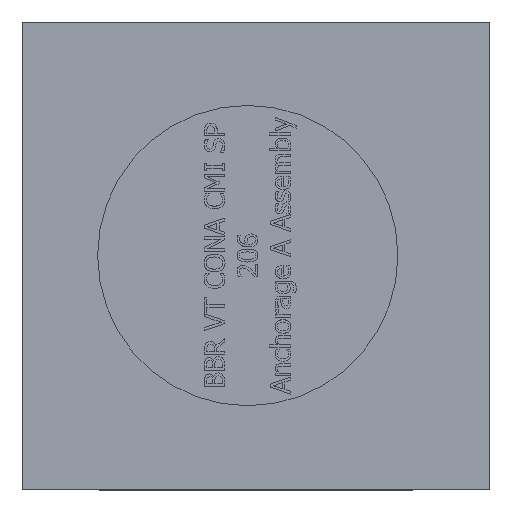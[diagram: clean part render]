
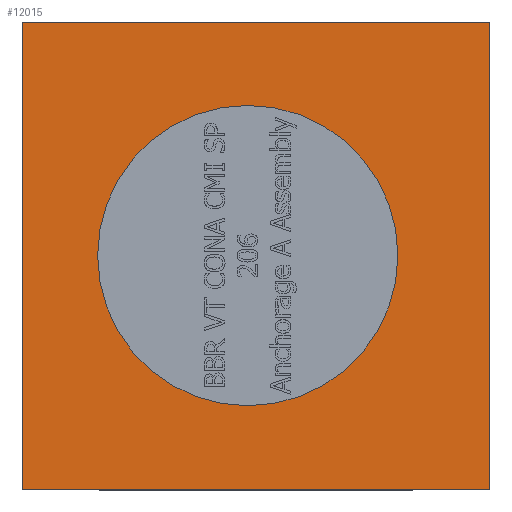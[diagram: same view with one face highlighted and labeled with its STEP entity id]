
A CAD part, left-side view. The second image highlights one B-rep face of the part: STEP entity #12015.
In plain terms, the highlighted planar face has unit normal (-1, 0, 0).
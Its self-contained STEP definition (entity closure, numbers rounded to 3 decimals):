
#55=CIRCLE('',#12363,45.);
#144=FACE_BOUND('',#2327,.T.);
#1641=FACE_OUTER_BOUND('',#2326,.T.);
#2326=EDGE_LOOP('',(#10393,#10394,#10395,#10396));
#2327=EDGE_LOOP('',(#10397));
#3402=LINE('',#21263,#4426);
#3403=LINE('',#21265,#4427);
#3404=LINE('',#21267,#4428);
#3405=LINE('',#21268,#4429);
#4426=VECTOR('',#14056,140.);
#4427=VECTOR('',#14057,140.);
#4428=VECTOR('',#14058,140.);
#4429=VECTOR('',#14059,140.);
#5509=VERTEX_POINT('',#21261);
#5510=VERTEX_POINT('',#21262);
#5511=VERTEX_POINT('',#21264);
#5512=VERTEX_POINT('',#21266);
#5513=VERTEX_POINT('',#21269);
#7150=EDGE_CURVE('',#5509,#5510,#3402,.T.);
#7151=EDGE_CURVE('',#5510,#5511,#3403,.T.);
#7152=EDGE_CURVE('',#5511,#5512,#3404,.T.);
#7153=EDGE_CURVE('',#5512,#5509,#3405,.T.);
#7154=EDGE_CURVE('',#5513,#5513,#55,.T.);
#10393=ORIENTED_EDGE('',*,*,#7150,.T.);
#10394=ORIENTED_EDGE('',*,*,#7151,.T.);
#10395=ORIENTED_EDGE('',*,*,#7152,.T.);
#10396=ORIENTED_EDGE('',*,*,#7153,.T.);
#10397=ORIENTED_EDGE('',*,*,#7154,.F.);
#10784=PLANE('',#12362);
#12015=ADVANCED_FACE('',(#1641,#144),#10784,.F.);
#12362=AXIS2_PLACEMENT_3D('',#21260,#14054,#14055);
#12363=AXIS2_PLACEMENT_3D('',#21270,#14060,#14061);
#14054=DIRECTION('center_axis',(1.,0.,0.));
#14055=DIRECTION('ref_axis',(0.,0.,1.));
#14056=DIRECTION('',(0.,1.,0.));
#14057=DIRECTION('',(0.,0.,-1.));
#14058=DIRECTION('',(0.,-1.,0.));
#14059=DIRECTION('',(0.,0.,1.));
#14060=DIRECTION('center_axis',(-1.,0.,0.));
#14061=DIRECTION('ref_axis',(0.,-1.,0.));
#21260=CARTESIAN_POINT('Origin',(-112.151,0.,5.253));
#21261=CARTESIAN_POINT('',(-112.151,-70.,75.253));
#21262=CARTESIAN_POINT('',(-112.151,70.,75.253));
#21263=CARTESIAN_POINT('',(-112.151,-70.,75.253));
#21264=CARTESIAN_POINT('',(-112.151,70.,-64.747));
#21265=CARTESIAN_POINT('',(-112.151,70.,75.253));
#21266=CARTESIAN_POINT('',(-112.151,-70.,-64.747));
#21267=CARTESIAN_POINT('',(-112.151,70.,-64.747));
#21268=CARTESIAN_POINT('',(-112.151,-70.,-64.747));
#21269=CARTESIAN_POINT('',(-112.151,2.466,-39.747));
#21270=CARTESIAN_POINT('Origin',(-112.151,2.466,5.253));
